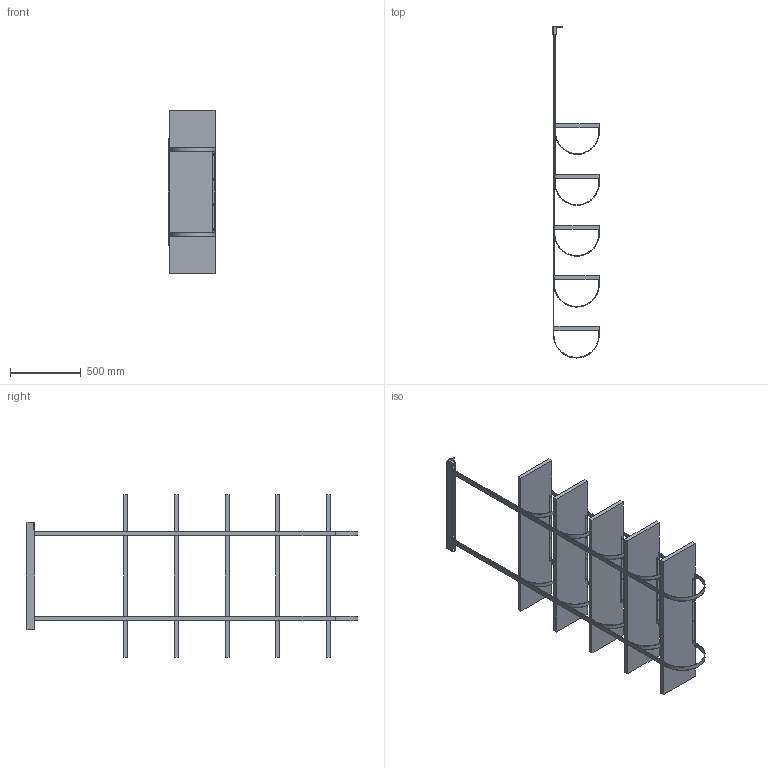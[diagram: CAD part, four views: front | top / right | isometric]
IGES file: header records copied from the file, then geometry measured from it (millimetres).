
Start section: SolidWorks IGES file using analytic representation for surfaces
Global section: file name: \\UTENTI\Dati Utenti\Tecnico\DC\2D - 3D per sito\3D\DeCastelli-3D-Talea 115.IGS; native system: SolidWorks 2022; preprocessor: SolidWorks 2022; author: Silviad; date: 240808.120931; units: millimetre
Bounding box: 334.75 x 2343.5 x 1150 mm (x, y, z)
Surface area: 5319493.3 mm2 (no closed solid volume)
Topology: 0 solids, 0 shells, 315 faces, 8916 edges, 8916 vertices
Faces by surface type: bspline 228, revolution 87
